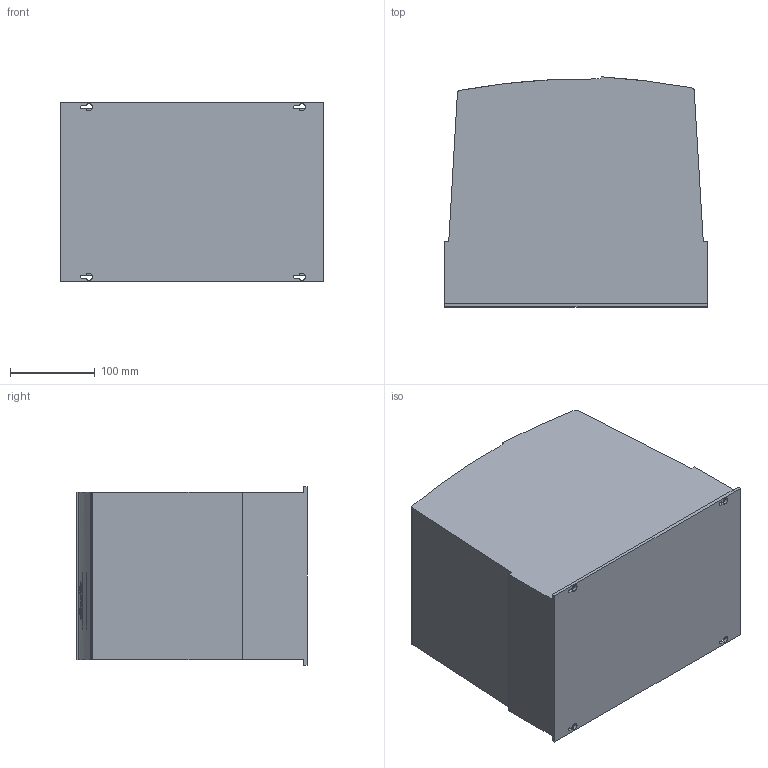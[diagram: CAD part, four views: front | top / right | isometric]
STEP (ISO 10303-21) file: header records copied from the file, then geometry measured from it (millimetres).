
FILE_DESCRIPTION (( 'STEP AP214' ), '1' );
FILE_NAME ('ECO S3 IP66 NS1.STEP', '2017-08-15T12:55:49', ( '' ), ( '' ), 'SwSTEP 2.0', 'SolidWorks 2017', '' );
FILE_SCHEMA (( 'AUTOMOTIVE_DESIGN' ));
Length unit declared in the file: millimetre
Products named in the file (1): ECO S3 IP66 NS1
Bounding box: 310 x 271.23 x 211 mm (x, y, z)
Volume: 15414401.6 mm3; surface area: 385353.7 mm2
Topology: 1 solids, 1 shells, 213 faces, 551 edges, 362 vertices
Faces by surface type: plane 101, cylinder 85, bspline 27
Entity records: 7561 total; most frequent: CARTESIAN_POINT 2688, ORIENTED_EDGE 1102, DIRECTION 857, EDGE_CURVE 551, VERTEX_POINT 362, AXIS2_PLACEMENT_3D 293, LINE 271, VECTOR 271
